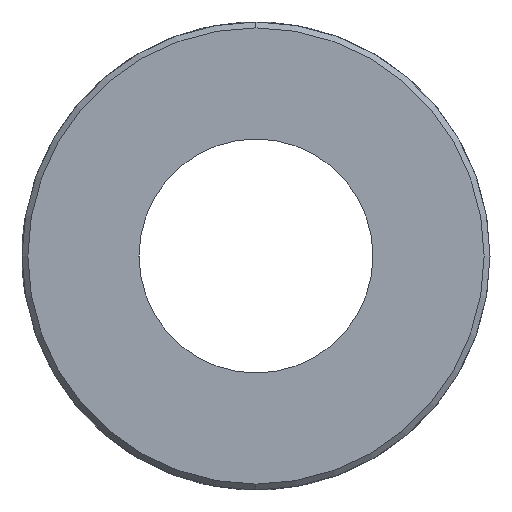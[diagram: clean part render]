
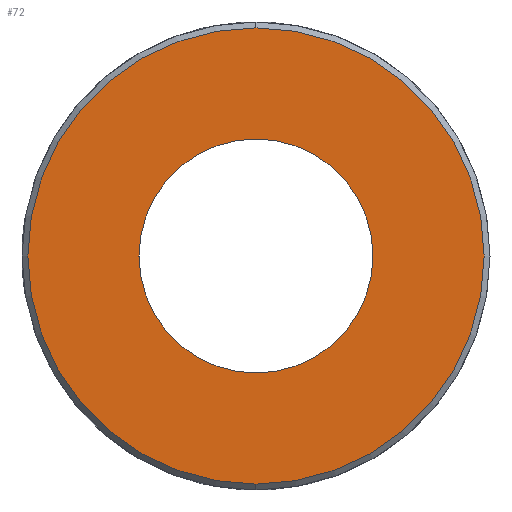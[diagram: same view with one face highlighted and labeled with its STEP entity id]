
A CAD part, left-side view. The second image highlights one B-rep face of the part: STEP entity #72.
In plain terms, the highlighted planar face has unit normal (-1, 0, 0) as drawn and (0, 0, 1) by its records, which use the part's own axes.
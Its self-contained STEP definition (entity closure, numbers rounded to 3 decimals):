
#4 = EDGE_CURVE ( 'NONE', #1198, #788, #464, .T. ) ;
#72 = ADVANCED_FACE ( 'NONE', ( #971, #1304 ), #839, .T. ) ;
#102 = CARTESIAN_POINT ( 'NONE',  ( 0., 0., 4. ) ) ;
#220 = AXIS2_PLACEMENT_3D ( 'NONE', #102, #1741, #984 ) ;
#270 = ORIENTED_EDGE ( 'NONE', *, *, #972, .T. ) ;
#288 = ORIENTED_EDGE ( 'NONE', *, *, #322, .F. ) ;
#322 = EDGE_CURVE ( 'NONE', #788, #1198, #1444, .T. ) ;
#331 = DIRECTION ( 'NONE',  ( 1., 0., 0. ) ) ;
#356 = ORIENTED_EDGE ( 'NONE', *, *, #358, .T. ) ;
#358 = EDGE_CURVE ( 'NONE', #791, #632, #874, .T. ) ;
#458 = DIRECTION ( 'NONE',  ( 0., 0., 1. ) ) ;
#464 = CIRCLE ( 'NONE', #220, 4. ) ;
#491 = CARTESIAN_POINT ( 'NONE',  ( 7.8, 0., 4. ) ) ;
#533 = AXIS2_PLACEMENT_3D ( 'NONE', #1791, #458, #1215 ) ;
#585 = AXIS2_PLACEMENT_3D ( 'NONE', #1405, #1678, #331 ) ;
#632 = VERTEX_POINT ( 'NONE', #1511 ) ;
#764 = CARTESIAN_POINT ( 'NONE',  ( 0., 0., 4. ) ) ;
#788 = VERTEX_POINT ( 'NONE', #792 ) ;
#791 = VERTEX_POINT ( 'NONE', #491 ) ;
#792 = CARTESIAN_POINT ( 'NONE',  ( -4., 0., 4. ) ) ;
#839 = PLANE ( 'NONE',  #1768 ) ;
#874 = CIRCLE ( 'NONE', #1507, 7.8 ) ;
#971 = FACE_OUTER_BOUND ( 'NONE', #1642, .T. ) ;
#972 = EDGE_CURVE ( 'NONE', #632, #791, #1322, .T. ) ;
#984 = DIRECTION ( 'NONE',  ( 1., 0., 0. ) ) ;
#1153 = CARTESIAN_POINT ( 'NONE',  ( 0., 0., 4. ) ) ;
#1198 = VERTEX_POINT ( 'NONE', #1720 ) ;
#1212 = DIRECTION ( 'NONE',  ( 1., 0., 0. ) ) ;
#1215 = DIRECTION ( 'NONE',  ( 1., 0., 0. ) ) ;
#1304 = FACE_BOUND ( 'NONE', #1951, .T. ) ;
#1322 = CIRCLE ( 'NONE', #533, 7.8 ) ;
#1395 = DIRECTION ( 'NONE',  ( 0., 0., 1. ) ) ;
#1405 = CARTESIAN_POINT ( 'NONE',  ( 0., 0., 4. ) ) ;
#1444 = CIRCLE ( 'NONE', #585, 4. ) ;
#1507 = AXIS2_PLACEMENT_3D ( 'NONE', #764, #1395, #1212 ) ;
#1511 = CARTESIAN_POINT ( 'NONE',  ( -7.8, 0., 4. ) ) ;
#1594 = DIRECTION ( 'NONE',  ( 0., 0., 1. ) ) ;
#1642 = EDGE_LOOP ( 'NONE', ( #270, #356 ) ) ;
#1678 = DIRECTION ( 'NONE',  ( 0., 0., 1. ) ) ;
#1689 = ORIENTED_EDGE ( 'NONE', *, *, #4, .F. ) ;
#1720 = CARTESIAN_POINT ( 'NONE',  ( 4., 0., 4. ) ) ;
#1741 = DIRECTION ( 'NONE',  ( 0., 0., 1. ) ) ;
#1768 = AXIS2_PLACEMENT_3D ( 'NONE', #1153, #1594, #1906 ) ;
#1791 = CARTESIAN_POINT ( 'NONE',  ( 0., 0., 4. ) ) ;
#1906 = DIRECTION ( 'NONE',  ( 1., 0., 0. ) ) ;
#1951 = EDGE_LOOP ( 'NONE', ( #288, #1689 ) ) ;
